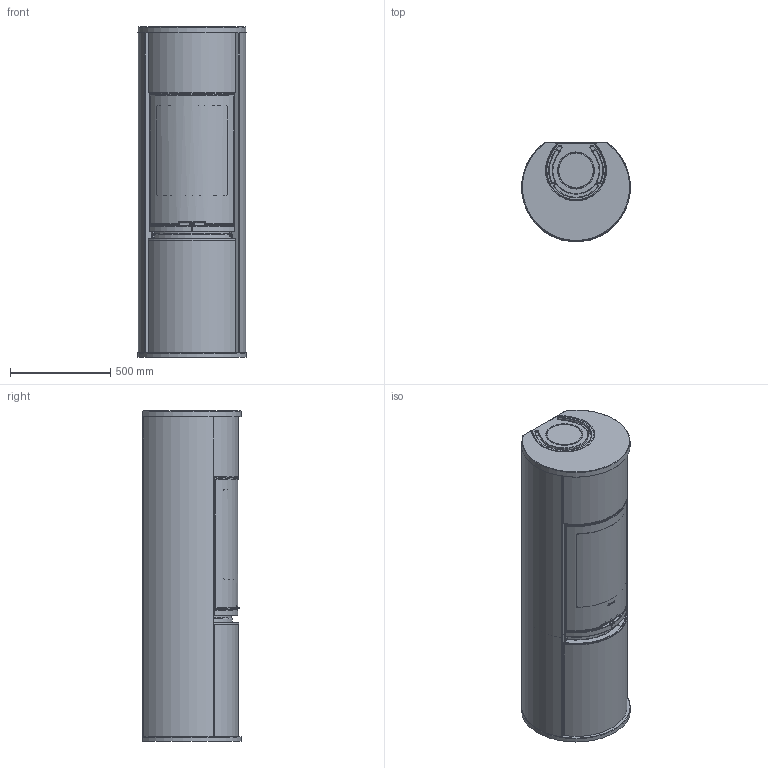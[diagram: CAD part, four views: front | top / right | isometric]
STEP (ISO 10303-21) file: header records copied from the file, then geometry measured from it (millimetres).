
FILE_DESCRIPTION(/* description */ ('Unknown'),/* implementation_level */ '2;1');
FILE_NAME(/* name */ 'C690G interior model-0',/* time_stamp */ '2017-06-28T11:26:08+02:00',/* author */ ('Unknown'),/* organization */ ('NIBE AB/Contura'),/* preprocessor_version */ 'ST-DEVELOPER v16.7',/* originating_system */ 'DEX',/* authorisation */ $);
FILE_SCHEMA (('AUTOMOTIVE_DESIGN {1 0 10303 214 3 1 1}'));
Products named in the file (13): DSN1018740; DSN1018428; DSN1018413; DSN1018743; DSN1018744; DSN1018748; DSN1018414; DSN1018411; DSN1018429; DSN1018742; DSN1018737; DSN1018745; DSN1018739
Assembly tree (12 placements, depth 2):
  DSN1018740
    DSN1018428
    DSN1018413
    DSN1018743
    DSN1018744
    DSN1018748
    DSN1018414
    DSN1018411
    DSN1018429
    DSN1018742
    DSN1018737
    DSN1018745
    DSN1018739
Bounding box: 542.46 x 495.19 x 1650 mm (x, y, z)
Volume: 303470178.9 mm3; surface area: 12531486.6 mm2
Topology: 13 solids, 19 shells, 1261 faces, 3177 edges, 2041 vertices
Faces by surface type: plane 477, bspline 371, cylinder 256, torus 90, cone 44, sphere 23
Full cylindrical faces by diameter (mm): 170 x1, 172 x1, 205 x1, 210.655 x1
Entity records: 51818 total; most frequent: CARTESIAN_POINT 23388, ORIENTED_EDGE 6264, DIRECTION 4415, EDGE_CURVE 3132, VERTEX_POINT 2025, AXIS2_PLACEMENT_3D 1735, EDGE_LOOP 1385, FACE_BOUND 1385
